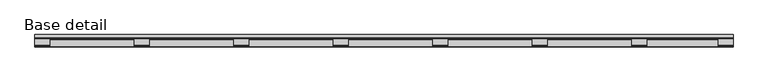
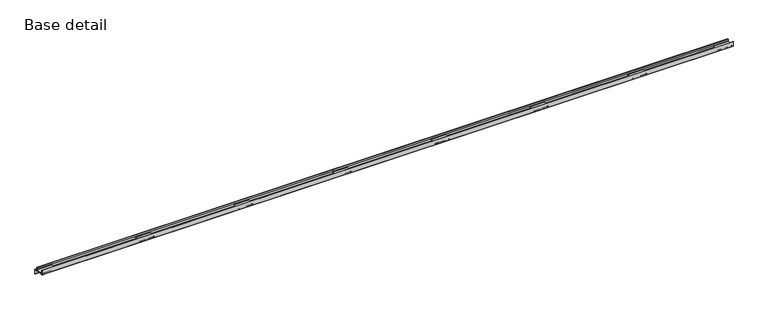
"""IFC4 building model written with IfcOpenShell, lengths in millimetres: beam geometry, QO-H-02_01 Base : Base detail."""

from ifc_helpers import new_model, si_unit, point, frame, frame_2d, origin, place, context, project, spatial, polyline, circle_curve, trimmed, segment, composite_curve, outline, extrude, source, transform, mapped, element, save


def base_detail_680916aa(model_context):
    return source(origin(), model_context, "Body", "SweptSolid", [
        extrude(outline(composite_curve([segment(polyline([(-34.0, 11.0), (-34.0, -10.0)]), True, "CONTINUOUS"), segment(trimmed(circle_curve(frame_2d((-38.0, -10.0)), 4.0), [point((-34.0, -10.0))], [point((-38.0, -14.0))], False, "CARTESIAN"), True, "CONTINUOUS"), segment(polyline([(-38.0, -14.0), (-108.0, -14.0)]), True, "CONTINUOUS"), segment(trimmed(circle_curve(frame_2d((-108.0, -10.0)), 4.0), [point((-108.0, -14.0))], [point((-112.0, -10.0))], False, "CARTESIAN"), True, "CONTINUOUS"), segment(polyline([(-112.0, -10.0), (-112.0, 11.0), (-110.0, 11.0), (-110.0, -10.0)]), True, "CONTINUOUS"), segment(trimmed(circle_curve(frame_2d((-108.0, -10.0)), 2.0), [point((-110.0, -10.0))], [point((-108.0, -12.0))], True, "CARTESIAN"), True, "CONTINUOUS"), segment(polyline([(-108.0, -12.0), (-38.0, -12.0)]), True, "CONTINUOUS"), segment(trimmed(circle_curve(frame_2d((-38.0, -10.0)), 2.0), [point((-38.0, -12.0))], [point((-36.0, -10.0))], True, "CARTESIAN"), True, "CONTINUOUS"), segment(polyline([(-36.0, -10.0), (-36.0, 11.0), (-34.0, 11.0)]), True, "CONTINUOUS")], self_intersect=False)), frame((220.6, 0.0, 0.0), z_axis=(1.0, 0.0, 0.0), x_axis=(0.0, 1.0, 0.0)), (0.0, 0.0, 1.0), 150.0),
        extrude(outline(composite_curve([segment(polyline([(-34.0, 11.0), (-34.0, -10.0)]), True, "CONTINUOUS"), segment(trimmed(circle_curve(frame_2d((-38.0, -10.0)), 4.0), [point((-34.0, -10.0))], [point((-38.0, -14.0))], False, "CARTESIAN"), True, "CONTINUOUS"), segment(polyline([(-38.0, -14.0), (-108.0, -14.0)]), True, "CONTINUOUS"), segment(trimmed(circle_curve(frame_2d((-108.0, -10.0)), 4.0), [point((-108.0, -14.0))], [point((-112.0, -10.0))], False, "CARTESIAN"), True, "CONTINUOUS"), segment(polyline([(-112.0, -10.0), (-112.0, 11.0), (-110.0, 11.0), (-110.0, -10.0)]), True, "CONTINUOUS"), segment(trimmed(circle_curve(frame_2d((-108.0, -10.0)), 2.0), [point((-110.0, -10.0))], [point((-108.0, -12.0))], True, "CARTESIAN"), True, "CONTINUOUS"), segment(polyline([(-108.0, -12.0), (-38.0, -12.0)]), True, "CONTINUOUS"), segment(trimmed(circle_curve(frame_2d((-38.0, -10.0)), 2.0), [point((-38.0, -12.0))], [point((-36.0, -10.0))], True, "CARTESIAN"), True, "CONTINUOUS"), segment(polyline([(-36.0, -10.0), (-36.0, 11.0), (-34.0, 11.0)]), True, "CONTINUOUS")], self_intersect=False)), frame((-779.4, 0.0, 0.0), z_axis=(1.0, 0.0, 0.0), x_axis=(0.0, 1.0, 0.0)), (0.0, 0.0, 1.0), 150.0),
        extrude(outline(composite_curve([segment(polyline([(-34.0, 11.0), (-34.0, -10.0)]), True, "CONTINUOUS"), segment(trimmed(circle_curve(frame_2d((-38.0, -10.0)), 4.0), [point((-34.0, -10.0))], [point((-38.0, -14.0))], False, "CARTESIAN"), True, "CONTINUOUS"), segment(polyline([(-38.0, -14.0), (-108.0, -14.0)]), True, "CONTINUOUS"), segment(trimmed(circle_curve(frame_2d((-108.0, -10.0)), 4.0), [point((-108.0, -14.0))], [point((-112.0, -10.0))], False, "CARTESIAN"), True, "CONTINUOUS"), segment(polyline([(-112.0, -10.0), (-112.0, 11.0), (-110.0, 11.0), (-110.0, -10.0)]), True, "CONTINUOUS"), segment(trimmed(circle_curve(frame_2d((-108.0, -10.0)), 2.0), [point((-110.0, -10.0))], [point((-108.0, -12.0))], True, "CARTESIAN"), True, "CONTINUOUS"), segment(polyline([(-108.0, -12.0), (-38.0, -12.0)]), True, "CONTINUOUS"), segment(trimmed(circle_curve(frame_2d((-38.0, -10.0)), 2.0), [point((-38.0, -12.0))], [point((-36.0, -10.0))], True, "CARTESIAN"), True, "CONTINUOUS"), segment(polyline([(-36.0, -10.0), (-36.0, 11.0), (-34.0, 11.0)]), True, "CONTINUOUS")], self_intersect=False)), frame((-1779.4, 0.0, 0.0), z_axis=(1.0, 0.0, 0.0), x_axis=(0.0, 1.0, 0.0)), (0.0, 0.0, 1.0), 150.0),
        extrude(outline(composite_curve([segment(polyline([(-34.0, 11.0), (-34.0, -10.0)]), True, "CONTINUOUS"), segment(trimmed(circle_curve(frame_2d((-38.0, -10.0)), 4.0), [point((-34.0, -10.0))], [point((-38.0, -14.0))], False, "CARTESIAN"), True, "CONTINUOUS"), segment(polyline([(-38.0, -14.0), (-108.0, -14.0)]), True, "CONTINUOUS"), segment(trimmed(circle_curve(frame_2d((-108.0, -10.0)), 4.0), [point((-108.0, -14.0))], [point((-112.0, -10.0))], False, "CARTESIAN"), True, "CONTINUOUS"), segment(polyline([(-112.0, -10.0), (-112.0, 11.0), (-110.0, 11.0), (-110.0, -10.0)]), True, "CONTINUOUS"), segment(trimmed(circle_curve(frame_2d((-108.0, -10.0)), 2.0), [point((-110.0, -10.0))], [point((-108.0, -12.0))], True, "CARTESIAN"), True, "CONTINUOUS"), segment(polyline([(-108.0, -12.0), (-38.0, -12.0)]), True, "CONTINUOUS"), segment(trimmed(circle_curve(frame_2d((-38.0, -10.0)), 2.0), [point((-38.0, -12.0))], [point((-36.0, -10.0))], True, "CARTESIAN"), True, "CONTINUOUS"), segment(polyline([(-36.0, -10.0), (-36.0, 11.0), (-34.0, 11.0)]), True, "CONTINUOUS")], self_intersect=False)), frame((-2779.4, 0.0, 0.0), z_axis=(1.0, 0.0, 0.0), x_axis=(0.0, 1.0, 0.0)), (0.0, 0.0, 1.0), 150.0),
        extrude(outline(composite_curve([segment(polyline([(-34.0, 11.0), (-34.0, -10.0)]), True, "CONTINUOUS"), segment(trimmed(circle_curve(frame_2d((-38.0, -10.0)), 4.0), [point((-34.0, -10.0))], [point((-38.0, -14.0))], False, "CARTESIAN"), True, "CONTINUOUS"), segment(polyline([(-38.0, -14.0), (-108.0, -14.0)]), True, "CONTINUOUS"), segment(trimmed(circle_curve(frame_2d((-108.0, -10.0)), 4.0), [point((-108.0, -14.0))], [point((-112.0, -10.0))], False, "CARTESIAN"), True, "CONTINUOUS"), segment(polyline([(-112.0, -10.0), (-112.0, 11.0), (-110.0, 11.0), (-110.0, -10.0)]), True, "CONTINUOUS"), segment(trimmed(circle_curve(frame_2d((-108.0, -10.0)), 2.0), [point((-110.0, -10.0))], [point((-108.0, -12.0))], True, "CARTESIAN"), True, "CONTINUOUS"), segment(polyline([(-108.0, -12.0), (-38.0, -12.0)]), True, "CONTINUOUS"), segment(trimmed(circle_curve(frame_2d((-38.0, -10.0)), 2.0), [point((-38.0, -12.0))], [point((-36.0, -10.0))], True, "CARTESIAN"), True, "CONTINUOUS"), segment(polyline([(-36.0, -10.0), (-36.0, 11.0), (-34.0, 11.0)]), True, "CONTINUOUS")], self_intersect=False)), frame((-3779.4, 0.0, 0.0), z_axis=(1.0, 0.0, 0.0), x_axis=(0.0, 1.0, 0.0)), (0.0, 0.0, 1.0), 150.0),
        extrude(outline(composite_curve([segment(polyline([(-34.0, 11.0), (-34.0, -10.0)]), True, "CONTINUOUS"), segment(trimmed(circle_curve(frame_2d((-38.0, -10.0)), 4.0), [point((-34.0, -10.0))], [point((-38.0, -14.0))], False, "CARTESIAN"), True, "CONTINUOUS"), segment(polyline([(-38.0, -14.0), (-108.0, -14.0)]), True, "CONTINUOUS"), segment(trimmed(circle_curve(frame_2d((-108.0, -10.0)), 4.0), [point((-108.0, -14.0))], [point((-112.0, -10.0))], False, "CARTESIAN"), True, "CONTINUOUS"), segment(polyline([(-112.0, -10.0), (-112.0, 11.0), (-110.0, 11.0), (-110.0, -10.0)]), True, "CONTINUOUS"), segment(trimmed(circle_curve(frame_2d((-108.0, -10.0)), 2.0), [point((-110.0, -10.0))], [point((-108.0, -12.0))], True, "CARTESIAN"), True, "CONTINUOUS"), segment(polyline([(-108.0, -12.0), (-38.0, -12.0)]), True, "CONTINUOUS"), segment(trimmed(circle_curve(frame_2d((-38.0, -10.0)), 2.0), [point((-38.0, -12.0))], [point((-36.0, -10.0))], True, "CARTESIAN"), True, "CONTINUOUS"), segment(polyline([(-36.0, -10.0), (-36.0, 11.0), (-34.0, 11.0)]), True, "CONTINUOUS")], self_intersect=False)), frame((1087.5013277, 0.0, 0.0), z_axis=(1.0, 0.0, 0.0), x_axis=(0.0, 1.0, 0.0)), (0.0, 0.0, 1.0), 150.0),
        extrude(outline(composite_curve([segment(polyline([(-34.0, 11.0), (-34.0, -10.0)]), True, "CONTINUOUS"), segment(trimmed(circle_curve(frame_2d((-38.0, -10.0)), 4.0), [point((-34.0, -10.0))], [point((-38.0, -14.0))], False, "CARTESIAN"), True, "CONTINUOUS"), segment(polyline([(-38.0, -14.0), (-108.0, -14.0)]), True, "CONTINUOUS"), segment(trimmed(circle_curve(frame_2d((-108.0, -10.0)), 4.0), [point((-108.0, -14.0))], [point((-112.0, -10.0))], False, "CARTESIAN"), True, "CONTINUOUS"), segment(polyline([(-112.0, -10.0), (-112.0, 11.0), (-110.0, 11.0), (-110.0, -10.0)]), True, "CONTINUOUS"), segment(trimmed(circle_curve(frame_2d((-108.0, -10.0)), 2.0), [point((-110.0, -10.0))], [point((-108.0, -12.0))], True, "CARTESIAN"), True, "CONTINUOUS"), segment(polyline([(-108.0, -12.0), (-38.0, -12.0)]), True, "CONTINUOUS"), segment(trimmed(circle_curve(frame_2d((-38.0, -10.0)), 2.0), [point((-38.0, -12.0))], [point((-36.0, -10.0))], True, "CARTESIAN"), True, "CONTINUOUS"), segment(polyline([(-36.0, -10.0), (-36.0, 11.0), (-34.0, 11.0)]), True, "CONTINUOUS")], self_intersect=False)), frame((-4779.4, 0.0, 0.0), z_axis=(1.0, 0.0, 0.0), x_axis=(0.0, 1.0, 0.0)), (0.0, 0.0, 1.0), 150.0),
        extrude(outline(composite_curve([segment(polyline([(-34.0, 11.0), (-34.0, -10.0)]), True, "CONTINUOUS"), segment(trimmed(circle_curve(frame_2d((-38.0, -10.0)), 4.0), [point((-34.0, -10.0))], [point((-38.0, -14.0))], False, "CARTESIAN"), True, "CONTINUOUS"), segment(polyline([(-38.0, -14.0), (-108.0, -14.0)]), True, "CONTINUOUS"), segment(trimmed(circle_curve(frame_2d((-108.0, -10.0)), 4.0), [point((-108.0, -14.0))], [point((-112.0, -10.0))], False, "CARTESIAN"), True, "CONTINUOUS"), segment(polyline([(-112.0, -10.0), (-112.0, 11.0), (-110.0, 11.0), (-110.0, -10.0)]), True, "CONTINUOUS"), segment(trimmed(circle_curve(frame_2d((-108.0, -10.0)), 2.0), [point((-110.0, -10.0))], [point((-108.0, -12.0))], True, "CARTESIAN"), True, "CONTINUOUS"), segment(polyline([(-108.0, -12.0), (-38.0, -12.0)]), True, "CONTINUOUS"), segment(trimmed(circle_curve(frame_2d((-38.0, -10.0)), 2.0), [point((-38.0, -12.0))], [point((-36.0, -10.0))], True, "CARTESIAN"), True, "CONTINUOUS"), segment(polyline([(-36.0, -10.0), (-36.0, 11.0), (-34.0, 11.0)]), True, "CONTINUOUS")], self_intersect=False)), frame((-5779.4, 0.0, 0.0), z_axis=(1.0, 0.0, 0.0), x_axis=(0.0, 1.0, 0.0)), (0.0, 0.0, 1.0), 150.0),
        extrude(outline(composite_curve([segment(trimmed(circle_curve(frame_2d((-121.5, -12.5)), 3.0), [point((-121.5, -15.5))], [point((-124.5, -12.5))], False, "CARTESIAN"), True, "CONTINUOUS"), segment(polyline([(-124.5, -12.5), (-124.5, 34.5), (-123.0, 34.5), (-123.0, -12.5)]), True, "CONTINUOUS"), segment(trimmed(circle_curve(frame_2d((-121.5, -12.5)), 1.5), [point((-123.0, -12.5))], [point((-121.5, -14.0))], True, "CARTESIAN"), True, "CONTINUOUS"), segment(polyline([(-121.5, -14.0), (-54.5, -14.0), (-54.5, -15.5), (-121.5, -15.5)]), True, "CONTINUOUS")], self_intersect=False)), frame((-5779.4, 0.0, 0.0), z_axis=(1.0, 0.0, 0.0), x_axis=(0.0, 1.0, 0.0)), (0.0, 0.0, 1.0), 7016.9013277),
        extrude(outline(polyline([(-37.5982754, 12.1857205), (-32.5982754, 12.1857205), (-32.5982754, -27.8142795), (0.2761496, -30.690419), (0.2761496, -80.690419), (-10.3304521, -70.0838173), (-9.7647666, -69.5181318), (-0.5238504, -78.7590481), (-0.5238504, -31.4234839), (-33.3982754, -28.5473444), (-33.3982754, 11.3857205), (-36.7982754, 11.3857205), (-36.7982754, -2.8142795), (-37.5982754, -2.8142795), (-37.5982754, 12.1857205)])), frame((-5779.4, 0.0, 0.0), z_axis=(1.0, 0.0, 0.0), x_axis=(0.0, 1.0, 0.0)), (0.0, 0.0, 1.0), 7016.9013277),
    ])


if __name__ == "__main__":
    model = new_model("IFC4")
    model_context = context("Model", 3, world=origin())
    ifc_project = project(units=[si_unit("LENGTHUNIT", "METRE", prefix="MILLI")], contexts=[model_context])
    site = spatial("IfcSite", under=ifc_project)
    building = spatial("IfcBuilding", under=site)
    placement = place(None, origin())
    base_detail_shape = base_detail_680916aa(model_context)
    element("IfcBeam", 1, ObjectType="QO-H-02_01 Base : Base detail", at=placement, inside=building, context=model_context, shape_type="MappedRepresentation", body=[
        mapped(base_detail_shape, transform((0.0, 0.0, 0.0), x_axis=(1.0, 0.0, 0.0), y_axis=(0.0, 1.0, 0.0), z_axis=(0.0, 0.0, 1.0))),
    ])
    save(model, "model.ifc")
